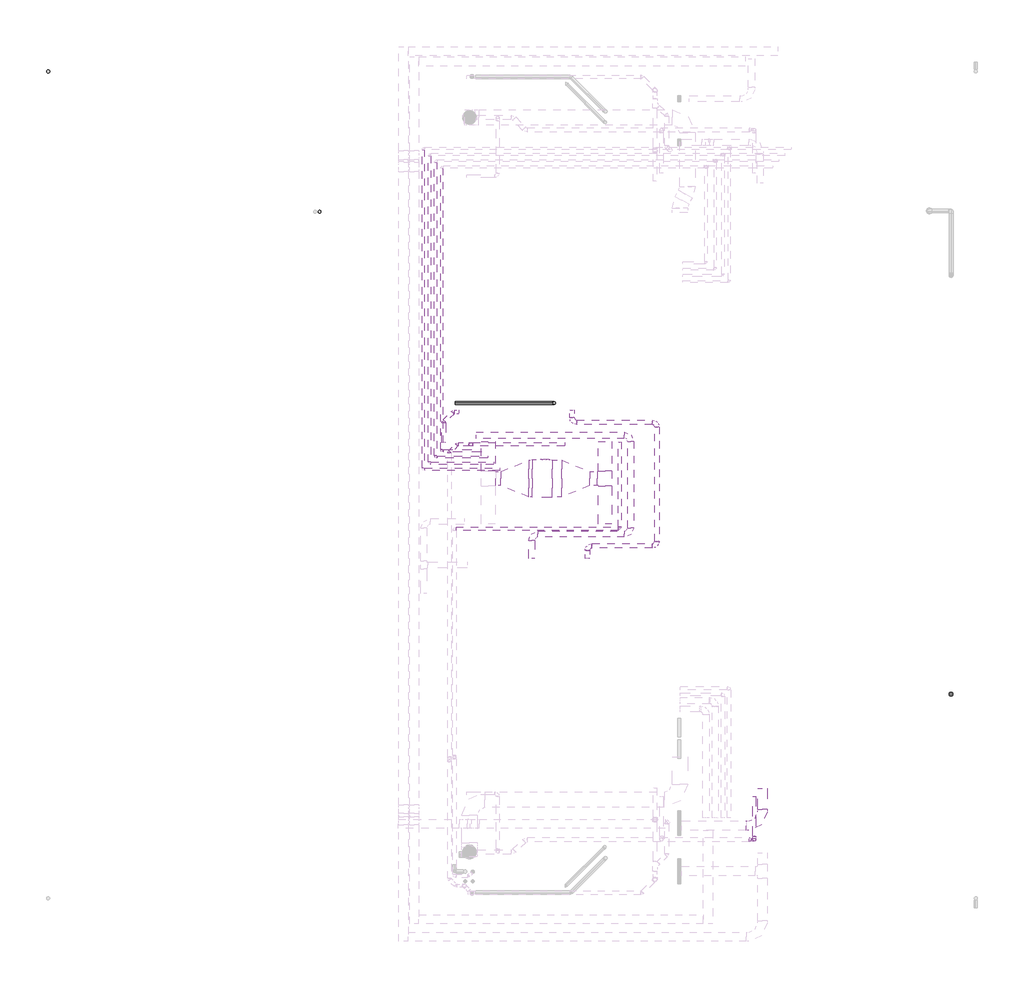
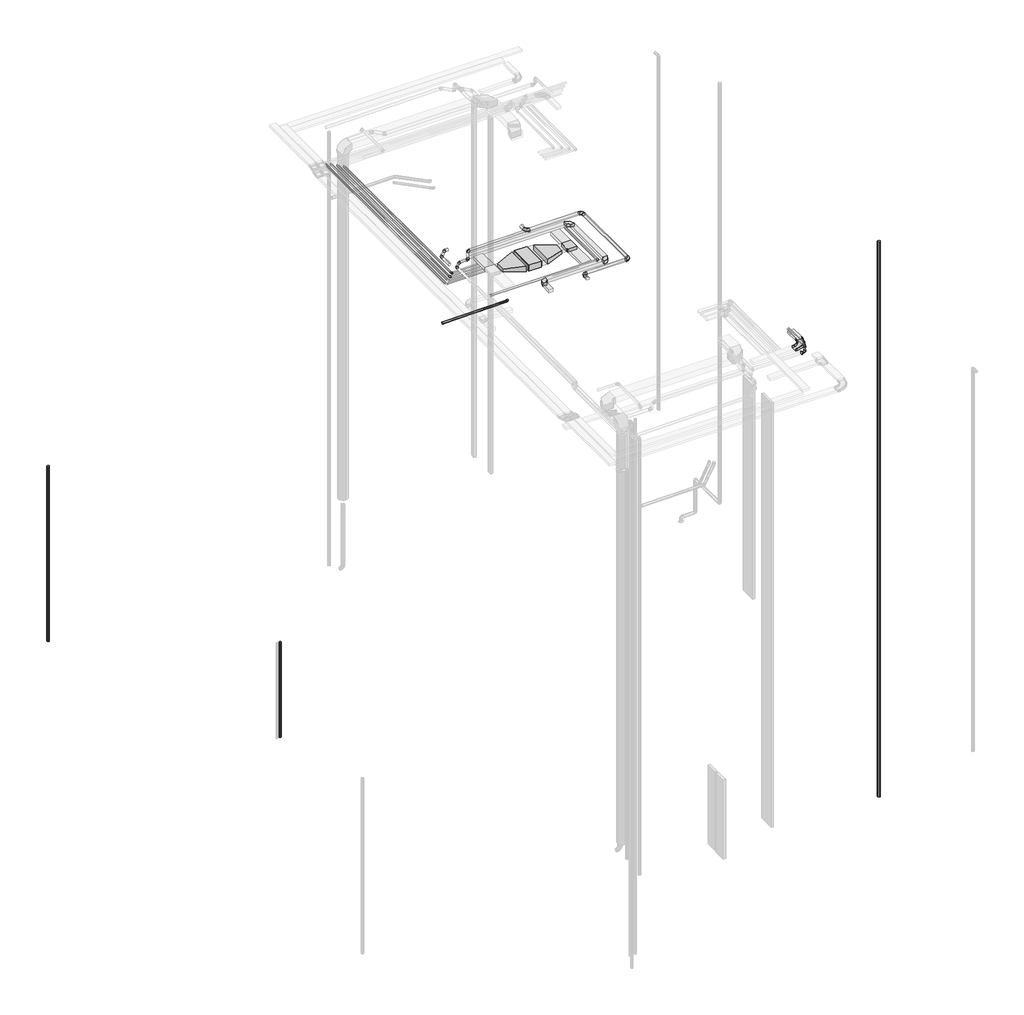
# One storey, part 3 of 5: 21 pipe segments, 18 duct segments, 13 duct fittings, 10 pipe fittings, 1 cable carrier fitting, 1 cable carrier segment, 1 proxy.
"""IFC4 building model written with IfcOpenShell, lengths in millimetres."""

from ifc_helpers import new_model, si_unit, point, frame, frame_2d, origin, place, context, project, spatial, polyline, circle_curve, trimmed, segment, composite_curve, outline, extrude, transform, mapped, element, save
from components import fc02_2b9a1db2, m_codo_horizontal_de_canal_el_5b0e7b07, duct_fitting_c79161f8, duct_fitting_90af8464, duct_fitting_d0abd107, ext_fd4e5c35, m_codo_rectangular_radio_apt_1_w_a605e9b7, m_codo_redondo_ext_1_d_fe658834, m_codo_redondo_ext_1_d_96ea52f9, pipe_fitting_b994c117, pipe_fitting_0b7fd5a4, pipe_fitting_aab77541, pipe_fitting_a8c499ec, pipe_fitting_3a68447e, pipe_fitting_87aeffad

model = new_model("IFC4")

# Units and contexts
model_context = context("Model", 3, world=origin())
ifc_project = project(units=[si_unit("LENGTHUNIT", "METRE", prefix="MILLI")], contexts=[model_context])

# Site, building, storey
site = spatial("IfcSite", under=ifc_project)
building = spatial("IfcBuilding", under=site)
storey = spatial("IfcBuildingStorey", under=building, Name="Nivell 06 P06_PP", Elevation=29910.0)

# Proxy
placement = place(None, origin())
fc02_shape = fc02_2b9a1db2(model_context)
element("IfcBuildingElementProxy", 1, Name="ARC_MDL_ME_UI_FC_ConducteSostre : FC02", ObjectType="ARC_MDL_ME_UI_FC_ConducteSostre : FC02", at=placement, inside=storey, context=model_context, shape_type="MappedRepresentation", body=[
    mapped(fc02_shape, transform((9481.3112528, -4290.0392002, 33010.0), x_axis=(-5.108879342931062e-05, -0.9999999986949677, 0.0), y_axis=(0.9999999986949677, -5.108879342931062e-05, 0.0), z_axis=(0.0, 0.0, 1.0))),
])

# Cable carrier fitting
m_codo_horizontal_de_canal_el_shape = m_codo_horizontal_de_canal_el_5b0e7b07(model_context)
element("IfcCableCarrierFitting", 2, ObjectType="M_Codo horizontal de canal : EL", at=placement, inside=storey, context=model_context, shape_type="MappedRepresentation", body=[
    mapped(m_codo_horizontal_de_canal_el_shape, transform((16614.6624278, -15521.1304394, 33010.0), x_axis=(1.0, 0.0, 0.0), y_axis=(0.0, 1.0, 0.0), z_axis=(0.0, 0.0, 1.0))),
])

# Cable carrier segment
element("IfcCableCarrierSegment", 3, ObjectType="EL", at=placement, inside=storey, context=model_context, shape_type="SweptSolid", body=[
    extrude(outline(polyline([(16464.6624278, -14321.1304394), (16764.6624278, -14321.1304394), (16764.6624278, -14996.1304394), (16464.6624278, -14996.1304394), (16464.6624278, -14321.1304394)])), frame((0.0, 0.0, 32960.0), z_axis=(0.0, 0.0, 1.0), x_axis=(1.0, 0.0, 0.0)), (0.0, 0.0, 1.0), 100.0),
])

# Duct fittings
duct_fitting_shape = duct_fitting_c79161f8(model_context)
element("IfcDuctFitting", 4, ObjectType="M_Transición redonda - Ángulo : EXT_45 graus", at=placement, inside=storey, context=model_context, shape_type="MappedRepresentation", body=[
    mapped(duct_fitting_shape, transform((16250.5896993, -15972.9719502, 33015.0), x_axis=(-1.0, 0.0, 0.0), y_axis=(0.0, -1.0, 0.0), z_axis=(0.0, 0.0, 1.0))),
])
duct_fitting_2_shape = duct_fitting_90af8464(model_context)
element("IfcDuctFitting", 5, ObjectType="M_Transición rectangular - Ángulo : EXT_45 graus", at=placement, inside=storey, context=model_context, shape_type="MappedRepresentation", body=[
    mapped(duct_fitting_2_shape, transform((8146.1618178, -4289.9878585, 33167.5), x_axis=(1.0, 0.0, 0.0), y_axis=(0.0, 1.0, 0.0), z_axis=(0.0, 0.0, 1.0))),
])
duct_fitting_3_shape = duct_fitting_d0abd107(model_context)
element("IfcDuctFitting", 6, ObjectType="M_Transición rectangular - Ángulo : EXT_45 graus", at=placement, inside=storey, context=model_context, shape_type="MappedRepresentation", body=[
    mapped(duct_fitting_3_shape, transform((10123.311255, -4290.0566725, 33167.5), x_axis=(1.0, 0.0, 0.0), y_axis=(0.0, 1.0, 0.0), z_axis=(0.0, 0.0, 1.0))),
])
ext_shape = ext_fd4e5c35(model_context)
element("IfcDuctFitting", 7, ObjectType="M_Te rectangular : EXT", at=placement, inside=storey, context=model_context, shape_type="MappedRepresentation", body=[
    mapped(ext_shape, transform((11523.311255, -4290.0566725, 33117.5), x_axis=(0.0, -1.0, 0.0), y_axis=(1.0, 0.0, 0.0), z_axis=(0.0, 0.0, 1.0))),
])
m_codo_rectangular_radio_apt_1_w_shape = m_codo_rectangular_radio_apt_1_w_a605e9b7(model_context)
element("IfcDuctFitting", 8, ObjectType="M_Codo rectangular - Radio : EXT_1 W", at=placement, inside=storey, context=model_context, shape_type="MappedRepresentation", body=[
    mapped(m_codo_rectangular_radio_apt_1_w_shape, transform((12351.1206995, -6088.8306037, 33185.0), x_axis=(1.0, 0.0, 0.0), y_axis=(0.0, 1.0, 0.0), z_axis=(0.0, 0.0, 1.0))),
])
element("IfcDuctFitting", 9, ObjectType="M_Codo rectangular - Radio : EXT_1 W", at=placement, inside=storey, context=model_context, shape_type="MappedRepresentation", body=[
    mapped(m_codo_rectangular_radio_apt_1_w_shape, transform((9151.1206995, -6088.8306037, 33185.0), x_axis=(-1.0, 0.0, 0.0), y_axis=(0.0, -1.0, 0.0), z_axis=(0.0, 0.0, 1.0))),
])
element("IfcDuctFitting", 10, ObjectType="M_Codo rectangular - Radio : EXT_1 W", at=placement, inside=storey, context=model_context, shape_type="MappedRepresentation", body=[
    mapped(m_codo_rectangular_radio_apt_1_w_shape, transform((12351.1206995, -2888.8306037, 33185.0), x_axis=(0.0, 1.0, 0.0), y_axis=(-1.0, 0.0, 0.0), z_axis=(0.0, 0.0, 1.0))),
])
m_codo_redondo_ext_1_d_shape = m_codo_redondo_ext_1_d_fe658834(model_context)
element("IfcDuctFitting", 11, ObjectType="M_Codo redondo : EXT_1 D", at=placement, inside=storey, context=model_context, shape_type="MappedRepresentation", body=[
    mapped(m_codo_redondo_ext_1_d_shape, transform((10951.1206995, -6468.8306037, 33185.0), x_axis=(-1.0, 0.0, 0.0), y_axis=(0.0, -1.0, 0.0), z_axis=(0.0, 0.0, 1.0))),
])
element("IfcDuctFitting", 12, ObjectType="M_Codo redondo : EXT_1 D", at=placement, inside=storey, context=model_context, shape_type="MappedRepresentation", body=[
    mapped(m_codo_redondo_ext_1_d_shape, transform((13201.1206995, -6468.8306037, 33185.0), x_axis=(1.0, 0.0, 0.0), y_axis=(0.0, 1.0, 0.0), z_axis=(0.0, 0.0, 1.0))),
])
element("IfcDuctFitting", 13, ObjectType="M_Codo redondo : EXT_1 D", at=placement, inside=storey, context=model_context, shape_type="MappedRepresentation", body=[
    mapped(m_codo_redondo_ext_1_d_shape, transform((13201.1206995, -2468.8306037, 33185.0), x_axis=(0.0, 1.0, 0.0), y_axis=(-1.0, 0.0, 0.0), z_axis=(0.0, 0.0, 1.0))),
])
element("IfcDuctFitting", 14, ObjectType="M_Codo redondo : EXT_1 D", at=placement, inside=storey, context=model_context, shape_type="MappedRepresentation", body=[
    mapped(m_codo_redondo_ext_1_d_shape, transform((10451.1206995, -2468.8306037, 33185.0), x_axis=(0.0, -1.0, 0.0), y_axis=(1.0, 0.0, 0.0), z_axis=(0.0, 0.0, 1.0))),
])
m_codo_redondo_ext_1_d_2_shape = m_codo_redondo_ext_1_d_96ea52f9(model_context)
element("IfcDuctFitting", 15, ObjectType="M_Codo redondo : EXT_1 D", at=placement, inside=storey, context=model_context, shape_type="MappedRepresentation", body=[
    mapped(m_codo_redondo_ext_1_d_2_shape, transform((16350.5896993, -15972.9719502, 33360.0), x_axis=(0.0, -1.0, 0.0), y_axis=(0.0, 0.0, 1.0), z_axis=(-1.0, 0.0, 0.0))),
])
element("IfcDuctFitting", 16, ObjectType="M_Codo redondo : EXT_1 D", at=placement, inside=storey, context=model_context, shape_type="MappedRepresentation", body=[
    mapped(m_codo_redondo_ext_1_d_2_shape, transform((16350.5896993, -15972.9719502, 33015.0), x_axis=(0.0, 0.0, -1.0), y_axis=(1.0, 0.0, 0.0), z_axis=(0.0, -1.0, 0.0))),
])

# Duct segments
element("IfcDuctSegment", 17, ObjectType="EXT_Fibra de vidre rígida", at=placement, inside=storey, context=model_context, shape_type="SweptSolid", body=[
    extrude(outline(polyline([(9351.1206995, -6188.8306037), (9351.1206995, -5988.8306037), (12151.1206995, -5988.8306037), (12151.1206995, -6188.8306037), (9351.1206995, -6188.8306037)])), frame((0.0, 0.0, 33110.0), z_axis=(0.0, 0.0, 1.0), x_axis=(1.0, 0.0, 0.0)), (0.0, 0.0, 1.0), 150.0),
])
element("IfcDuctSegment", 18, ObjectType="EXT_Fibra de vidre rígida", at=placement, inside=storey, context=model_context, shape_type="SweptSolid", body=[
    extrude(outline(polyline([(12251.1206995, -3088.8306037), (12451.1206995, -3088.8306037), (12451.1206995, -5888.8306037), (12251.1206995, -5888.8306037), (12251.1206995, -3088.8306037)])), frame((0.0, 0.0, 33110.0), z_axis=(0.0, 0.0, 1.0), x_axis=(1.0, 0.0, 0.0)), (0.0, 0.0, 1.0), 150.0),
])
element("IfcDuctSegment", 19, ObjectType="EXT_Fibra de vidre rígida", at=placement, inside=storey, context=model_context, shape_type="SweptSolid", body=[
    extrude(outline(polyline([(9251.1206995, -6868.8306037), (9051.1206995, -6868.8306037), (9051.1206995, -6288.8306037), (9251.1206995, -6288.8306037), (9251.1206995, -6868.8306037)])), frame((0.0, 0.0, 33110.0), z_axis=(0.0, 0.0, 1.0), x_axis=(1.0, 0.0, 0.0)), (0.0, 0.0, 1.0), 150.0),
])
element("IfcDuctSegment", 20, ObjectType="EXT_Fibra de vidre rígida", at=placement, inside=storey, context=model_context, shape_type="SweptSolid", body=[
    extrude(outline(polyline([(7351.1206995, -2988.8306037), (7351.1206995, -2788.8306037), (12151.1206995, -2788.8306037), (12151.1206995, -2988.8306037), (7351.1206995, -2988.8306037)])), frame((0.0, 0.0, 33110.0), z_axis=(0.0, 0.0, 1.0), x_axis=(1.0, 0.0, 0.0)), (0.0, 0.0, 1.0), 150.0),
])
element("IfcDuctSegment", 21, ObjectType="EXT_Acer Galvanitzat - Rígid", at=placement, inside=storey, context=model_context, shape_type="SweptSolid", body=[
    extrude(outline(composite_curve([segment(trimmed(circle_curve(frame_2d((33185.0, 10951.1206995)), 75.0), [point((33185.0, 11026.1206995))], [point((33260.0, 10951.1206995))], False, "CARTESIAN"), True, "CONTINUOUS"), segment(trimmed(circle_curve(frame_2d((33185.0, 10951.1206995)), 75.0), [point((33260.0, 10951.1206995))], [point((33185.0, 10876.1206995))], False, "CARTESIAN"), True, "CONTINUOUS"), segment(trimmed(circle_curve(frame_2d((33185.0, 10951.1206995)), 75.0), [point((33185.0, 10876.1206995))], [point((33110.0, 10951.1206995))], False, "CARTESIAN"), True, "CONTINUOUS"), segment(trimmed(circle_curve(frame_2d((33185.0, 10951.1206995)), 75.0), [point((33110.0, 10951.1206995))], [point((33185.0, 11026.1206995))], False, "CARTESIAN"), True, "CONTINUOUS")], self_intersect=False)), frame((0.0, -6868.8306037, 0.0), z_axis=(0.0, 1.0, 0.0), x_axis=(0.0, 0.0, 1.0)), (0.0, 0.0, 1.0), 250.0),
])
element("IfcDuctSegment", 22, ObjectType="EXT_Acer Galvanitzat - Rígid", at=placement, inside=storey, context=model_context, shape_type="SweptSolid", body=[
    extrude(outline(composite_curve([segment(trimmed(circle_curve(frame_2d((-6468.8306037, 33185.0)), 75.0), [point((-6543.8306037, 33185.0))], [point((-6468.8306037, 33260.0))], False, "CARTESIAN"), True, "CONTINUOUS"), segment(trimmed(circle_curve(frame_2d((-6468.8306037, 33185.0)), 75.0), [point((-6468.8306037, 33260.0))], [point((-6393.8306037, 33185.0))], False, "CARTESIAN"), True, "CONTINUOUS"), segment(trimmed(circle_curve(frame_2d((-6468.8306037, 33185.0)), 75.0), [point((-6393.8306037, 33185.0))], [point((-6468.8306037, 33110.0))], False, "CARTESIAN"), True, "CONTINUOUS"), segment(trimmed(circle_curve(frame_2d((-6468.8306037, 33185.0)), 75.0), [point((-6468.8306037, 33110.0))], [point((-6543.8306037, 33185.0))], False, "CARTESIAN"), True, "CONTINUOUS")], self_intersect=False)), frame((11101.1206995, 0.0, 0.0), z_axis=(1.0, 0.0, 0.0), x_axis=(0.0, 1.0, 0.0)), (0.0, 0.0, 1.0), 1950.0),
])
element("IfcDuctSegment", 23, ObjectType="EXT_Acer Galvanitzat - Rígid", at=placement, inside=storey, context=model_context, shape_type="SweptSolid", body=[
    extrude(outline(composite_curve([segment(trimmed(circle_curve(frame_2d((33185.0, 13201.1206995)), 75.0), [point((33185.0, 13276.1206995))], [point((33260.0, 13201.1206995))], False, "CARTESIAN"), True, "CONTINUOUS"), segment(trimmed(circle_curve(frame_2d((33185.0, 13201.1206995)), 75.0), [point((33260.0, 13201.1206995))], [point((33185.0, 13126.1206995))], False, "CARTESIAN"), True, "CONTINUOUS"), segment(trimmed(circle_curve(frame_2d((33185.0, 13201.1206995)), 75.0), [point((33185.0, 13126.1206995))], [point((33110.0, 13201.1206995))], False, "CARTESIAN"), True, "CONTINUOUS"), segment(trimmed(circle_curve(frame_2d((33185.0, 13201.1206995)), 75.0), [point((33110.0, 13201.1206995))], [point((33185.0, 13276.1206995))], False, "CARTESIAN"), True, "CONTINUOUS")], self_intersect=False)), frame((0.0, -6318.8306037, 0.0), z_axis=(0.0, 1.0, 0.0), x_axis=(0.0, 0.0, 1.0)), (0.0, 0.0, 1.0), 3700.0),
])
element("IfcDuctSegment", 24, ObjectType="EXT_Acer Galvanitzat - Rígid", at=placement, inside=storey, context=model_context, shape_type="SweptSolid", body=[
    extrude(outline(composite_curve([segment(trimmed(circle_curve(frame_2d((-2468.8306037, 33185.0)), 75.0), [point((-2393.8306037, 33185.0))], [point((-2468.8306037, 33110.0))], False, "CARTESIAN"), True, "CONTINUOUS"), segment(trimmed(circle_curve(frame_2d((-2468.8306037, 33185.0)), 75.0), [point((-2468.8306037, 33110.0))], [point((-2543.8306037, 33185.0))], False, "CARTESIAN"), True, "CONTINUOUS"), segment(trimmed(circle_curve(frame_2d((-2468.8306037, 33185.0)), 75.0), [point((-2543.8306037, 33185.0))], [point((-2468.8306037, 33260.0))], False, "CARTESIAN"), True, "CONTINUOUS"), segment(trimmed(circle_curve(frame_2d((-2468.8306037, 33185.0)), 75.0), [point((-2468.8306037, 33260.0))], [point((-2393.8306037, 33185.0))], False, "CARTESIAN"), True, "CONTINUOUS")], self_intersect=False)), frame((10601.1206995, 0.0, 0.0), z_axis=(1.0, 0.0, 0.0), x_axis=(0.0, 1.0, 0.0)), (0.0, 0.0, 1.0), 2450.0),
])
element("IfcDuctSegment", 25, ObjectType="EXT_Acer Galvanitzat - Rígid", at=placement, inside=storey, context=model_context, shape_type="SweptSolid", body=[
    extrude(outline(composite_curve([segment(trimmed(circle_curve(frame_2d((33185.0, 10451.1206995)), 75.0), [point((33185.0, 10526.1206995))], [point((33260.0, 10451.1206995))], False, "CARTESIAN"), True, "CONTINUOUS"), segment(trimmed(circle_curve(frame_2d((33185.0, 10451.1206995)), 75.0), [point((33260.0, 10451.1206995))], [point((33185.0, 10376.1206995))], False, "CARTESIAN"), True, "CONTINUOUS"), segment(trimmed(circle_curve(frame_2d((33185.0, 10451.1206995)), 75.0), [point((33185.0, 10376.1206995))], [point((33110.0, 10451.1206995))], False, "CARTESIAN"), True, "CONTINUOUS"), segment(trimmed(circle_curve(frame_2d((33185.0, 10451.1206995)), 75.0), [point((33110.0, 10451.1206995))], [point((33185.0, 10526.1206995))], False, "CARTESIAN"), True, "CONTINUOUS")], self_intersect=False)), frame((0.0, -2318.8306037, 0.0), z_axis=(0.0, 1.0, 0.0), x_axis=(0.0, 0.0, 1.0)), (0.0, 0.0, 1.0), 250.0),
])
element("IfcDuctSegment", 26, ObjectType="EXT_Acer Galvanitzat - Rígid", at=placement, inside=storey, context=model_context, shape_type="SweptSolid", body=[
    extrude(outline(composite_curve([segment(trimmed(circle_curve(frame_2d((33360.0, 16350.5896993)), 50.0), [point((33360.0, 16400.5896993))], [point((33410.0, 16350.5896993))], False, "CARTESIAN"), True, "CONTINUOUS"), segment(trimmed(circle_curve(frame_2d((33360.0, 16350.5896993)), 50.0), [point((33410.0, 16350.5896993))], [point((33360.0, 16300.5896993))], False, "CARTESIAN"), True, "CONTINUOUS"), segment(trimmed(circle_curve(frame_2d((33360.0, 16350.5896993)), 50.0), [point((33360.0, 16300.5896993))], [point((33310.0, 16350.5896993))], False, "CARTESIAN"), True, "CONTINUOUS"), segment(trimmed(circle_curve(frame_2d((33360.0, 16350.5896993)), 50.0), [point((33310.0, 16350.5896993))], [point((33360.0, 16400.5896993))], False, "CARTESIAN"), True, "CONTINUOUS")], self_intersect=False)), frame((0.0, -15872.9719502, 0.0), z_axis=(0.0, 1.0, 0.0), x_axis=(0.0, 0.0, 1.0)), (0.0, 0.0, 1.0), 1301.48805),
])
element("IfcDuctSegment", 27, ObjectType="EXT_Acer Galvanitzat - Rígid", at=placement, inside=storey, context=model_context, shape_type="SweptSolid", body=[
    extrude(outline(composite_curve([segment(trimmed(circle_curve(frame_2d((16350.5896993, -15972.9719502)), 50.0), [point((16400.5896993, -15972.9719502))], [point((16350.5896993, -16022.9719502))], False, "CARTESIAN"), True, "CONTINUOUS"), segment(trimmed(circle_curve(frame_2d((16350.5896993, -15972.9719502)), 50.0), [point((16350.5896993, -16022.9719502))], [point((16300.5896993, -15972.9719502))], False, "CARTESIAN"), True, "CONTINUOUS"), segment(trimmed(circle_curve(frame_2d((16350.5896993, -15972.9719502)), 50.0), [point((16300.5896993, -15972.9719502))], [point((16350.5896993, -15922.9719502))], False, "CARTESIAN"), True, "CONTINUOUS"), segment(trimmed(circle_curve(frame_2d((16350.5896993, -15972.9719502)), 50.0), [point((16350.5896993, -15922.9719502))], [point((16400.5896993, -15972.9719502))], False, "CARTESIAN"), True, "CONTINUOUS")], self_intersect=False)), frame((0.0, 0.0, 33115.0), z_axis=(0.0, 0.0, 1.0), x_axis=(1.0, 0.0, 0.0)), (0.0, 0.0, 1.0), 145.0),
])
element("IfcDuctSegment", 28, ObjectType="EXT_Planxa galvanitzada", at=placement, inside=storey, context=model_context, shape_type="SweptSolid", body=[
    extrude(outline(polyline([(8146.1618178, -4064.9878585), (8146.1618178, -4514.9878585), (7996.1618178, -4514.9878585), (7996.1618178, -4064.9878585), (8146.1618178, -4064.9878585)])), frame((0.0, 0.0, 33092.5), z_axis=(0.0, 0.0, 1.0), x_axis=(1.0, 0.0, 0.0)), (0.0, 0.0, 1.0), 150.0),
])
element("IfcDuctSegment", 29, ObjectType="EXT_Planxa galvanitzada", at=placement, inside=storey, context=model_context, shape_type="SweptSolid", body=[
    extrude(outline(polyline([(9823.311255, -4890.0566725), (9823.311255, -3690.0566725), (10123.311255, -3690.0566725), (10123.311255, -4890.0566725), (9823.311255, -4890.0566725)])), frame((0.0, 0.0, 33030.0), z_axis=(0.0, 0.0, 1.0), x_axis=(1.0, 0.0, 0.0)), (0.0, 0.0, 1.0), 275.0),
])
element("IfcDuctSegment", 30, ObjectType="EXT_Planxa galvanitzada", at=placement, inside=storey, context=model_context, shape_type="SweptSolid", body=[
    extrude(outline(polyline([(9166.5836021, -3690.023169), (9166.0389044, -4890.0230454), (9051.2195546, -4889.9709272), (9051.7642523, -3689.9710508), (9166.5836021, -3690.023169)])), frame((0.0, 0.0, 33030.0), z_axis=(0.0, 0.0, 1.0), x_axis=(1.0, 0.0, 0.0)), (0.0, 0.0, 1.0), 275.0),
])
element("IfcDuctSegment", 31, ObjectType="EXT_Planxa galvanitzada", at=placement, inside=storey, context=model_context, shape_type="SweptSolid", body=[
    extrude(outline(polyline([(11028.6413409, -4515.0566725), (11028.6413409, -4065.0566725), (11273.311255, -4065.0566725), (11273.311255, -4515.0566725), (11028.6413409, -4515.0566725)])), frame((0.0, 0.0, 33042.5), z_axis=(0.0, 0.0, 1.0), x_axis=(1.0, 0.0, 0.0)), (0.0, 0.0, 1.0), 150.0),
])
element("IfcDuctSegment", 32, ObjectType="EXT_Planxa galvanitzada", at=placement, inside=storey, context=model_context, shape_type="SweptSolid", body=[
    extrude(outline(polyline([(11748.311255, -4040.0566725), (11298.311255, -4040.0566725), (11298.311255, -3089.9878585), (11748.311255, -3089.9878585), (11748.311255, -4040.0566725)])), frame((0.0, 0.0, 33042.5), z_axis=(0.0, 0.0, 1.0), x_axis=(1.0, 0.0, 0.0)), (0.0, 0.0, 1.0), 150.0),
])
element("IfcDuctSegment", 33, ObjectType="EXT_Planxa galvanitzada", at=placement, inside=storey, context=model_context, shape_type="SweptSolid", body=[
    extrude(outline(polyline([(11298.311255, -4540.0566725), (11748.311255, -4540.0566725), (11748.311255, -5765.0566725), (11298.311255, -5765.0566725), (11298.311255, -4540.0566725)])), frame((0.0, 0.0, 33042.5), z_axis=(0.0, 0.0, 1.0), x_axis=(1.0, 0.0, 0.0)), (0.0, 0.0, 1.0), 150.0),
])
element("IfcDuctSegment", 34, ObjectType="EXT_Planxa galvanitzada", at=placement, inside=storey, context=model_context, shape_type="SweptSolid", body=[
    extrude(outline(polyline([(7971.1618178, -4039.9878585), (7521.1618178, -4039.9878585), (7521.1618178, -3089.9878585), (7971.1618178, -3089.9878585), (7971.1618178, -4039.9878585)])), frame((0.0, 0.0, 33092.5), z_axis=(0.0, 0.0, 1.0), x_axis=(1.0, 0.0, 0.0)), (0.0, 0.0, 1.0), 150.0),
])

# Pipe fittings
pipe_fitting_shape = pipe_fitting_b994c117(model_context)
element("IfcPipeFitting", 35, ObjectType="M_Codo - Genérico : Estándar", at=placement, inside=storey, context=model_context, shape_type="MappedRepresentation", body=[
    mapped(pipe_fitting_shape, transform((6311.3051568, -2451.1577931, 33277.5877132), x_axis=(-0.7070714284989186, -0.7070714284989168, -0.009999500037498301), y_axis=(0.7071300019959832, -0.7070714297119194, -0.0041416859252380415), z_axis=(-0.004141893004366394, -0.009999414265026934, 0.9999414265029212))),
])
element("IfcPipeFitting", 36, ObjectType="M_Codo - Genérico : Estándar", at=placement, inside=storey, context=model_context, shape_type="MappedRepresentation", body=[
    mapped(pipe_fitting_shape, transform((6620.3201267, -2142.1428232, 33281.9578449), x_axis=(-0.9999500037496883, 0.0, -0.009999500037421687), y_axis=(4.14168592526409e-05, -0.9999914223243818, -0.004141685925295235), z_axis=(-0.00999941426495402, -0.004141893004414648, 0.9999414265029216))),
])
pipe_fitting_2_shape = pipe_fitting_0b7fd5a4(model_context)
element("IfcPipeFitting", 37, ObjectType="M_Codo - Genérico : Estándar", at=placement, inside=storey, context=model_context, shape_type="MappedRepresentation", body=[
    mapped(pipe_fitting_2_shape, transform((6489.9549591, -3440.646195, 33259.0362283), x_axis=(-0.7070714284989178, -0.7070714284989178, -0.00999950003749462), y_axis=(0.7071300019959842, -0.7070714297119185, -0.004141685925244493), z_axis=(-0.004141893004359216, -0.009999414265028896, 0.9999414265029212))),
])
element("IfcPipeFitting", 38, ObjectType="M_Codo - Genérico : Estándar", at=placement, inside=storey, context=model_context, shape_type="MappedRepresentation", body=[
    mapped(pipe_fitting_2_shape, transform((6744.0929223, -3186.5070187, 33262.4231872), x_axis=(-0.9999500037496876, 0.0, -0.009999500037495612), y_axis=(4.141685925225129e-05, -0.9999914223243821, -0.004141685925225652), z_axis=(-0.009999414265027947, -0.004141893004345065, 0.9999414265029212))),
])
pipe_fitting_3_shape = pipe_fitting_aab77541(model_context)
element("IfcPipeFitting", 39, ObjectType="M_Codo - Genérico : Estándar", at=placement, inside=storey, context=model_context, shape_type="MappedRepresentation", body=[
    mapped(pipe_fitting_3_shape, transform((7182.1037673, -3186.5070187, 33266.8032957), x_axis=(0.9999500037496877, 0.0, 0.009999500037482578), y_axis=(-0.009999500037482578, 0.0, 0.9999500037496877), z_axis=(0.0, -1.0, 0.0))),
])
element("IfcPipeFitting", 40, ObjectType="M_Codo - Genérico : Estándar", at=placement, inside=storey, context=model_context, shape_type="MappedRepresentation", body=[
    mapped(pipe_fitting_3_shape, transform((7182.1088406, -3186.4967672, 33729.0484449), x_axis=(0.0, 0.0, 1.0), y_axis=(1.0, 0.0, 0.0), z_axis=(0.0, 1.0, 0.0))),
])
pipe_fitting_4_shape = pipe_fitting_a8c499ec(model_context)
element("IfcPipeFitting", 41, ObjectType="M_Codo - Genérico : Estándar", at=placement, inside=storey, context=model_context, shape_type="MappedRepresentation", body=[
    mapped(pipe_fitting_4_shape, transform((9883.1603089, -1851.9887948, 29364.2030013), x_axis=(0.9999500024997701, 4.9997101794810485e-05, 0.009999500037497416), y_axis=(-0.009999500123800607, 1.476482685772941e-06, 0.9999500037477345), z_axis=(4.997983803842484e-05, -0.9999999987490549, 1.976354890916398e-06))),
])
pipe_fitting_5_shape = pipe_fitting_3a68447e(model_context)
element("IfcPipeFitting", 42, ObjectType="M_Codo - Genérico : Estándar", at=placement, inside=storey, context=model_context, shape_type="MappedRepresentation", body=[
    mapped(pipe_fitting_5_shape, transform((6245.7381883, -3394.9253722, 33022.5), x_axis=(0.0, -1.0, 0.0), y_axis=(1.0, 0.0, 0.0), z_axis=(0.0, 0.0, 1.0))),
])
element("IfcPipeFitting", 43, ObjectType="M_Codo - Genérico : Estándar", at=placement, inside=storey, context=model_context, shape_type="MappedRepresentation", body=[
    mapped(pipe_fitting_5_shape, transform((6045.7381883, -3594.9253722, 33022.5), x_axis=(0.0, -1.0, 0.0), y_axis=(1.0, 0.0, 0.0), z_axis=(0.0, 0.0, 1.0))),
])
pipe_fitting_6_shape = pipe_fitting_87aeffad(model_context)
element("IfcPipeFitting", 44, ObjectType="M_Codo - Genérico : Estándar", at=placement, inside=storey, context=model_context, shape_type="MappedRepresentation", body=[
    mapped(pipe_fitting_6_shape, transform((11998.0330075, -5912.8731458, 33210.8), x_axis=(1.0, 0.0, 0.0), y_axis=(0.0, 1.0, 0.0), z_axis=(0.0, 0.0, 1.0))),
])

# Pipe segments
element("IfcPipeSegment", 45, ObjectType="PVC_Baixant", at=placement, inside=storey, context=model_context, shape_type="SweptSolid", body=[
    extrude(outline(composite_curve([segment(trimmed(circle_curve(frame_2d((22710.0712358, -11264.3813427)), 62.5), [point((22772.5712358, -11264.3813427))], [point((22710.0712358, -11326.8813427))], False, "CARTESIAN"), True, "CONTINUOUS"), segment(trimmed(circle_curve(frame_2d((22710.0712358, -11264.3813427)), 62.5), [point((22710.0712358, -11326.8813427))], [point((22647.5712358, -11264.3813427))], False, "CARTESIAN"), True, "CONTINUOUS"), segment(trimmed(circle_curve(frame_2d((22710.0712358, -11264.3813427)), 62.5), [point((22647.5712358, -11264.3813427))], [point((22710.0712358, -11201.8813427))], False, "CARTESIAN"), True, "CONTINUOUS"), segment(trimmed(circle_curve(frame_2d((22710.0712358, -11264.3813427)), 62.5), [point((22710.0712358, -11201.8813427))], [point((22772.5712358, -11264.3813427))], False, "CARTESIAN"), True, "CONTINUOUS")], self_intersect=False)), frame((0.0, 0.0, 4838.2624618), z_axis=(0.0, 0.0, 1.0), x_axis=(1.0, 0.0, 0.0)), (0.0, 0.0, 1.0), 28838.909798),
])
element("IfcPipeSegment", 46, ObjectType="PVC_Baixant", at=placement, inside=storey, context=model_context, shape_type="SweptSolid", body=[
    extrude(outline(composite_curve([segment(trimmed(circle_curve(frame_2d((0.0, 62.5)), 62.5), [point((62.5, 62.5))], [point((0.0, 0.0))], False, "CARTESIAN"), True, "CONTINUOUS"), segment(trimmed(circle_curve(frame_2d((0.0, 62.5)), 62.5), [point((0.0, 0.0))], [point((-62.5, 62.5))], False, "CARTESIAN"), True, "CONTINUOUS"), segment(trimmed(circle_curve(frame_2d((0.0, 62.5)), 62.5), [point((-62.5, 62.5))], [point((0.0, 125.0))], False, "CARTESIAN"), True, "CONTINUOUS"), segment(trimmed(circle_curve(frame_2d((0.0, 62.5)), 62.5), [point((0.0, 125.0))], [point((62.5, 62.5))], False, "CARTESIAN"), True, "CONTINUOUS")], self_intersect=False)), frame((6311.3051568, -3132.5361884, 33333.2770542), z_axis=(0.0, 0.9999500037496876, 0.009999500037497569), x_axis=(1.0, 0.0, 0.0)), (0.0, 0.0, 1.0), 651.1988152),
])
element("IfcPipeSegment", 47, ObjectType="PVC_Baixant", at=placement, inside=storey, context=model_context, shape_type="SweptSolid", body=[
    extrude(outline(composite_curve([segment(trimmed(circle_curve(frame_2d((0.0, 62.5000001)), 62.5), [point((62.4968755, 61.8750626))], [point((-0.6249375, 0.0031244))], False, "CARTESIAN"), True, "CONTINUOUS"), segment(trimmed(circle_curve(frame_2d((0.0, 62.5000001)), 62.5), [point((-0.6249375, 0.0031244))], [point((-62.4968756, 63.1249376))], False, "CARTESIAN"), True, "CONTINUOUS"), segment(trimmed(circle_curve(frame_2d((0.0, 62.5000001)), 62.5), [point((-62.4968756, 63.1249376))], [point((0.6249375, 124.9968756))], False, "CARTESIAN"), True, "CONTINUOUS"), segment(trimmed(circle_curve(frame_2d((0.0, 62.5000001)), 62.5), [point((0.6249375, 124.9968756))], [point((62.4968755, 61.8750626))], False, "CARTESIAN"), True, "CONTINUOUS")], self_intersect=False)), frame((6332.2264445, -2431.1203005, 33340.3773359), z_axis=(0.707071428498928, 0.7070714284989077, 0.009999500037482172), x_axis=(0.7071421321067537, -0.7070007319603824, -0.009998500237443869)), (0.0, 0.0, 1.0), 377.8577153),
])
element("IfcPipeSegment", 48, ObjectType="PVC_Baixant", at=placement, inside=storey, context=model_context, shape_type="SweptSolid", body=[
    extrude(outline(composite_curve([segment(trimmed(circle_curve(frame_2d((0.0, -62.5)), 62.5), [point((0.0, 0.0))], [point((62.5, -62.5))], False, "CARTESIAN"), True, "CONTINUOUS"), segment(trimmed(circle_curve(frame_2d((0.0, -62.5)), 62.5), [point((62.5, -62.5))], [point((0.0, -125.0))], False, "CARTESIAN"), True, "CONTINUOUS"), segment(trimmed(circle_curve(frame_2d((0.0, -62.5)), 62.5), [point((0.0, -125.0))], [point((-62.5000001, -62.5))], False, "CARTESIAN"), True, "CONTINUOUS"), segment(trimmed(circle_curve(frame_2d((0.0, -62.5)), 62.5), [point((-62.5000001, -62.5))], [point((0.0, 0.0))], False, "CARTESIAN"), True, "CONTINUOUS")], self_intersect=False)), frame((6649.9072955, -2079.6428232, 33282.2537165), z_axis=(0.9999500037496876, 0.0, 0.009999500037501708), x_axis=(0.009999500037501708, 0.0, -0.9999500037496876)), (0.0, 0.0, 1.0), 146.1427714),
])
element("IfcPipeSegment", 49, ObjectType="PVC_Baixant", at=placement, inside=storey, context=model_context, shape_type="SweptSolid", body=[
    extrude(outline(composite_curve([segment(trimmed(circle_curve(frame_2d((0.0, 55.0)), 55.0), [point((54.9972505, 54.450055))], [point((-0.549945, 0.0027495))], False, "CARTESIAN"), True, "CONTINUOUS"), segment(trimmed(circle_curve(frame_2d((0.0, 55.0)), 55.0), [point((-0.549945, 0.0027495))], [point((-54.9972505, 55.549945))], False, "CARTESIAN"), True, "CONTINUOUS"), segment(trimmed(circle_curve(frame_2d((0.0, 55.0)), 55.0), [point((-54.9972505, 55.549945))], [point((0.549945, 109.9972505))], False, "CARTESIAN"), True, "CONTINUOUS"), segment(trimmed(circle_curve(frame_2d((0.0, 55.0)), 55.0), [point((0.549945, 109.9972505))], [point((54.9972505, 54.450055))], False, "CARTESIAN"), True, "CONTINUOUS")], self_intersect=False)), frame((6508.3869247, -3422.991969, 33314.2913965), z_axis=(0.7070714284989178, 0.7070714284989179, 0.009999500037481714), x_axis=(0.7071421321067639, -0.7070007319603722, -0.009998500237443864)), (0.0, 0.0, 1.0), 307.2860328),
])
element("IfcPipeSegment", 50, ObjectType="PVC_Baixant", at=placement, inside=storey, context=model_context, shape_type="SweptSolid", body=[
    extrude(outline(composite_curve([segment(trimmed(circle_curve(frame_2d((0.0, -55.0)), 55.0), [point((0.0, 0.0))], [point((55.0, -55.0))], False, "CARTESIAN"), True, "CONTINUOUS"), segment(trimmed(circle_curve(frame_2d((0.0, -55.0)), 55.0), [point((55.0, -55.0))], [point((0.0, -110.0))], False, "CARTESIAN"), True, "CONTINUOUS"), segment(trimmed(circle_curve(frame_2d((0.0, -55.0)), 55.0), [point((0.0, -110.0))], [point((-55.0, -55.0))], False, "CARTESIAN"), True, "CONTINUOUS"), segment(trimmed(circle_curve(frame_2d((0.0, -55.0)), 55.0), [point((-55.0, -55.0))], [point((0.0, 0.0))], False, "CARTESIAN"), True, "CONTINUOUS")], self_intersect=False)), frame((6770.1596581, -3131.5070187, 33262.6838546), z_axis=(0.9999500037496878, 0.0, 0.009999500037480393), x_axis=(0.009999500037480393, 0.0, -0.9999500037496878)), (0.0, 0.0, 1.0), 349.6534341),
])
element("IfcPipeSegment", 51, ObjectType="PVC_Baixant", at=placement, inside=storey, context=model_context, shape_type="SweptSolid", body=[
    extrude(outline(composite_curve([segment(trimmed(circle_curve(frame_2d((0.0, -55.0)), 55.0), [point((0.0, 0.0))], [point((55.0, -55.0))], False, "CARTESIAN"), True, "CONTINUOUS"), segment(trimmed(circle_curve(frame_2d((0.0, -55.0)), 55.0), [point((55.0, -55.0))], [point((0.0, -110.0))], False, "CARTESIAN"), True, "CONTINUOUS"), segment(trimmed(circle_curve(frame_2d((0.0, -55.0)), 55.0), [point((0.0, -110.0))], [point((-55.0, -55.0))], False, "CARTESIAN"), True, "CONTINUOUS"), segment(trimmed(circle_curve(frame_2d((0.0, -55.0)), 55.0), [point((-55.0, -55.0))], [point((0.0, 0.0))], False, "CARTESIAN"), True, "CONTINUOUS")], self_intersect=False)), frame((7244.4169971, -3131.4967672, 33729.6715264), z_axis=(0.9999500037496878, 0.0, 0.009999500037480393), x_axis=(0.009999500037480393, 0.0, -0.9999500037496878)), (0.0, 0.0, 1.0), 2970.6877235),
])
element("IfcPipeSegment", 52, ObjectType="PVC_Baixant", at=placement, inside=storey, context=model_context, shape_type="SweptSolid", body=[
    extrude(outline(composite_curve([segment(trimmed(circle_curve(frame_2d((0.0, 54.9999999)), 55.0), [point((-55.0, 54.9999999))], [point((0.0, 110.0))], False, "CARTESIAN"), True, "CONTINUOUS"), segment(trimmed(circle_curve(frame_2d((0.0, 54.9999999)), 55.0), [point((0.0, 110.0))], [point((55.0, 55.0))], False, "CARTESIAN"), True, "CONTINUOUS"), segment(trimmed(circle_curve(frame_2d((0.0, 54.9999999)), 55.0), [point((55.0, 55.0))], [point((0.0, 0.0))], False, "CARTESIAN"), True, "CONTINUOUS"), segment(trimmed(circle_curve(frame_2d((0.0, 54.9999999)), 55.0), [point((0.0, 0.0))], [point((-55.0, 54.9999999))], False, "CARTESIAN"), True, "CONTINUOUS")], self_intersect=False)), frame((7182.1037673, -3241.5070186, 33329.1162375), z_axis=(1.5026598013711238e-05, 3.036378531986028e-05, 0.9999999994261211), x_axis=(0.9999999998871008, -4.562643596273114e-10, -1.502659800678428e-05)), (0.0, 0.0, 1.0), 337.6226058),
])
element("IfcPipeSegment", 53, ObjectType="PVC_Baixant", at=placement, inside=storey, context=model_context, shape_type="SweptSolid", body=[
    extrude(outline(composite_curve([segment(trimmed(circle_curve(frame_2d((0.0, 45.0)), 45.0), [point((0.2250067, 0.0005625))], [point((-44.9994375, 44.7749933))], False, "CARTESIAN"), True, "CONTINUOUS"), segment(trimmed(circle_curve(frame_2d((0.0, 45.0)), 45.0), [point((-44.9994375, 44.7749933))], [point((-0.2250066, 89.9994374))], False, "CARTESIAN"), True, "CONTINUOUS"), segment(trimmed(circle_curve(frame_2d((0.0, 45.0)), 45.0), [point((-0.2250066, 89.9994374))], [point((44.9994375, 45.2250066))], False, "CARTESIAN"), True, "CONTINUOUS"), segment(trimmed(circle_curve(frame_2d((0.0, 45.0)), 45.0), [point((44.9994375, 45.2250066))], [point((0.2250067, 0.0005625))], False, "CARTESIAN"), True, "CONTINUOUS")], self_intersect=False)), frame((6684.6550488, -1897.1481563, 29332.4429441), z_axis=(0.9999500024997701, 4.999710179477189e-05, 0.009999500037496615), x_axis=(0.00999962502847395, -0.0049996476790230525, -0.9999375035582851)), (0.0, 0.0, 1.0), 3146.8002563),
])
element("IfcPipeSegment", 54, ObjectType="PPR_CLI_Aquatherm Blue Pipe", at=placement, inside=storey, context=model_context, shape_type="SweptSolid", body=[
    extrude(outline(composite_curve([segment(trimmed(circle_curve(frame_2d((33022.5, 6245.7381883)), 37.5), [point((33022.5, 6283.2381883))], [point((33060.0, 6245.7381883))], False, "CARTESIAN"), True, "CONTINUOUS"), segment(trimmed(circle_curve(frame_2d((33022.5, 6245.7381883)), 37.5), [point((33060.0, 6245.7381883))], [point((33022.5, 6208.2381883))], False, "CARTESIAN"), True, "CONTINUOUS"), segment(trimmed(circle_curve(frame_2d((33022.5, 6245.7381883)), 37.5), [point((33022.5, 6208.2381883))], [point((32985.0, 6245.7381883))], False, "CARTESIAN"), True, "CONTINUOUS"), segment(trimmed(circle_curve(frame_2d((33022.5, 6245.7381883)), 37.5), [point((32985.0, 6245.7381883))], [point((33022.5, 6283.2381883))], False, "CARTESIAN"), True, "CONTINUOUS")], self_intersect=False)), frame((0.0, -3349.4878722, 0.0), z_axis=(0.0, 1.0, 0.0), x_axis=(0.0, 0.0, 1.0)), (0.0, 0.0, 1.0), 9098.2931269),
])
element("IfcPipeSegment", 55, ObjectType="PPR_CLI_Aquatherm Blue Pipe", at=placement, inside=storey, context=model_context, shape_type="SweptSolid", body=[
    extrude(outline(composite_curve([segment(trimmed(circle_curve(frame_2d((33022.5, 6045.7381883)), 37.5), [point((33022.5, 6083.2381883))], [point((33060.0, 6045.7381883))], False, "CARTESIAN"), True, "CONTINUOUS"), segment(trimmed(circle_curve(frame_2d((33022.5, 6045.7381883)), 37.5), [point((33060.0, 6045.7381883))], [point((33022.5, 6008.2381883))], False, "CARTESIAN"), True, "CONTINUOUS"), segment(trimmed(circle_curve(frame_2d((33022.5, 6045.7381883)), 37.5), [point((33022.5, 6008.2381883))], [point((32985.0, 6045.7381883))], False, "CARTESIAN"), True, "CONTINUOUS"), segment(trimmed(circle_curve(frame_2d((33022.5, 6045.7381883)), 37.5), [point((32985.0, 6045.7381883))], [point((33022.5, 6083.2381883))], False, "CARTESIAN"), True, "CONTINUOUS")], self_intersect=False)), frame((0.0, -3549.4878722, 0.0), z_axis=(0.0, 1.0, 0.0), x_axis=(0.0, 0.0, 1.0)), (0.0, 0.0, 1.0), 9498.2931269),
])
element("IfcPipeSegment", 56, ObjectType="PPR_CLI_Aquatherm Blue Pipe", at=placement, inside=storey, context=model_context, shape_type="SweptSolid", body=[
    extrude(outline(composite_curve([segment(trimmed(circle_curve(frame_2d((33022.5, 5845.7381883)), 37.5), [point((33022.5, 5883.2381883))], [point((33060.0, 5845.7381883))], False, "CARTESIAN"), True, "CONTINUOUS"), segment(trimmed(circle_curve(frame_2d((33022.5, 5845.7381883)), 37.5), [point((33060.0, 5845.7381883))], [point((33022.5, 5808.2381883))], False, "CARTESIAN"), True, "CONTINUOUS"), segment(trimmed(circle_curve(frame_2d((33022.5, 5845.7381883)), 37.5), [point((33022.5, 5808.2381883))], [point((32985.0, 5845.7381883))], False, "CARTESIAN"), True, "CONTINUOUS"), segment(trimmed(circle_curve(frame_2d((33022.5, 5845.7381883)), 37.5), [point((32985.0, 5845.7381883))], [point((33022.5, 5883.2381883))], False, "CARTESIAN"), True, "CONTINUOUS")], self_intersect=False)), frame((0.0, -3749.4878722, 0.0), z_axis=(0.0, 1.0, 0.0), x_axis=(0.0, 0.0, 1.0)), (0.0, 0.0, 1.0), 9898.2931269),
])
element("IfcPipeSegment", 57, ObjectType="PPR_CLI_Aquatherm Blue Pipe", at=placement, inside=storey, context=model_context, shape_type="SweptSolid", body=[
    extrude(outline(composite_curve([segment(trimmed(circle_curve(frame_2d((33022.5, 5645.7381883)), 37.5), [point((33022.5, 5683.2381883))], [point((33060.0, 5645.7381883))], False, "CARTESIAN"), True, "CONTINUOUS"), segment(trimmed(circle_curve(frame_2d((33022.5, 5645.7381883)), 37.5), [point((33060.0, 5645.7381883))], [point((33022.5, 5608.2381883))], False, "CARTESIAN"), True, "CONTINUOUS"), segment(trimmed(circle_curve(frame_2d((33022.5, 5645.7381883)), 37.5), [point((33022.5, 5608.2381883))], [point((32985.0, 5645.7381883))], False, "CARTESIAN"), True, "CONTINUOUS"), segment(trimmed(circle_curve(frame_2d((33022.5, 5645.7381883)), 37.5), [point((32985.0, 5645.7381883))], [point((33022.5, 5683.2381883))], False, "CARTESIAN"), True, "CONTINUOUS")], self_intersect=False)), frame((0.0, -3949.4878722, 0.0), z_axis=(0.0, 1.0, 0.0), x_axis=(0.0, 0.0, 1.0)), (0.0, 0.0, 1.0), 10298.2931269),
])
element("IfcPipeSegment", 58, ObjectType="PPR_CLI_Aquatherm Blue Pipe", at=placement, inside=storey, context=model_context, shape_type="SweptSolid", body=[
    extrude(outline(composite_curve([segment(trimmed(circle_curve(frame_2d((-3394.9253722, 33022.5)), 37.5), [point((-3432.4253722, 33022.5))], [point((-3394.9253722, 33060.0))], False, "CARTESIAN"), True, "CONTINUOUS"), segment(trimmed(circle_curve(frame_2d((-3394.9253722, 33022.5)), 37.5), [point((-3394.9253722, 33060.0))], [point((-3357.4253722, 33022.5))], False, "CARTESIAN"), True, "CONTINUOUS"), segment(trimmed(circle_curve(frame_2d((-3394.9253722, 33022.5)), 37.5), [point((-3357.4253722, 33022.5))], [point((-3394.9253722, 32985.0))], False, "CARTESIAN"), True, "CONTINUOUS"), segment(trimmed(circle_curve(frame_2d((-3394.9253722, 33022.5)), 37.5), [point((-3394.9253722, 32985.0))], [point((-3432.4253722, 33022.5))], False, "CARTESIAN"), True, "CONTINUOUS")], self_intersect=False)), frame((6291.1756883, 0.0, 0.0), z_axis=(1.0, 0.0, 0.0), x_axis=(0.0, 1.0, 0.0)), (0.0, 0.0, 1.0), 1234.603417),
])
element("IfcPipeSegment", 59, ObjectType="PPR_CLI_Aquatherm Blue Pipe", at=placement, inside=storey, context=model_context, shape_type="SweptSolid", body=[
    extrude(outline(composite_curve([segment(trimmed(circle_curve(frame_2d((-3594.9253722, 33022.5)), 37.5), [point((-3632.4253722, 33022.5))], [point((-3594.9253722, 33060.0))], False, "CARTESIAN"), True, "CONTINUOUS"), segment(trimmed(circle_curve(frame_2d((-3594.9253722, 33022.5)), 37.5), [point((-3594.9253722, 33060.0))], [point((-3557.4253722, 33022.5))], False, "CARTESIAN"), True, "CONTINUOUS"), segment(trimmed(circle_curve(frame_2d((-3594.9253722, 33022.5)), 37.5), [point((-3557.4253722, 33022.5))], [point((-3594.9253722, 32985.0))], False, "CARTESIAN"), True, "CONTINUOUS"), segment(trimmed(circle_curve(frame_2d((-3594.9253722, 33022.5)), 37.5), [point((-3594.9253722, 32985.0))], [point((-3632.4253722, 33022.5))], False, "CARTESIAN"), True, "CONTINUOUS")], self_intersect=False)), frame((6091.1756883, 0.0, 0.0), z_axis=(1.0, 0.0, 0.0), x_axis=(0.0, 1.0, 0.0)), (0.0, 0.0, 1.0), 1634.603417),
])
element("IfcPipeSegment", 60, ObjectType="PPR_CLI_Aquatherm Blue Pipe", at=placement, inside=storey, context=model_context, shape_type="SweptSolid", body=[
    extrude(outline(composite_curve([segment(trimmed(circle_curve(frame_2d((-3794.9253722, 33022.5)), 37.5), [point((-3832.4253722, 33022.5))], [point((-3794.9253722, 33060.0))], False, "CARTESIAN"), True, "CONTINUOUS"), segment(trimmed(circle_curve(frame_2d((-3794.9253722, 33022.5)), 37.5), [point((-3794.9253722, 33060.0))], [point((-3757.4253722, 33022.5))], False, "CARTESIAN"), True, "CONTINUOUS"), segment(trimmed(circle_curve(frame_2d((-3794.9253722, 33022.5)), 37.5), [point((-3757.4253722, 33022.5))], [point((-3794.9253722, 32985.0))], False, "CARTESIAN"), True, "CONTINUOUS"), segment(trimmed(circle_curve(frame_2d((-3794.9253722, 33022.5)), 37.5), [point((-3794.9253722, 32985.0))], [point((-3832.4253722, 33022.5))], False, "CARTESIAN"), True, "CONTINUOUS")], self_intersect=False)), frame((5891.1756883, 0.0, 0.0), z_axis=(1.0, 0.0, 0.0), x_axis=(0.0, 1.0, 0.0)), (0.0, 0.0, 1.0), 2034.603417),
])
element("IfcPipeSegment", 61, ObjectType="PPR_CLI_Aquatherm Blue Pipe", at=placement, inside=storey, context=model_context, shape_type="SweptSolid", body=[
    extrude(outline(composite_curve([segment(trimmed(circle_curve(frame_2d((-3994.9253722, 33022.5)), 37.5), [point((-4032.4253722, 33022.5))], [point((-3994.9253722, 33060.0))], False, "CARTESIAN"), True, "CONTINUOUS"), segment(trimmed(circle_curve(frame_2d((-3994.9253722, 33022.5)), 37.5), [point((-3994.9253722, 33060.0))], [point((-3957.4253722, 33022.5))], False, "CARTESIAN"), True, "CONTINUOUS"), segment(trimmed(circle_curve(frame_2d((-3994.9253722, 33022.5)), 37.5), [point((-3957.4253722, 33022.5))], [point((-3994.9253722, 32985.0))], False, "CARTESIAN"), True, "CONTINUOUS"), segment(trimmed(circle_curve(frame_2d((-3994.9253722, 33022.5)), 37.5), [point((-3994.9253722, 32985.0))], [point((-4032.4253722, 33022.5))], False, "CARTESIAN"), True, "CONTINUOUS")], self_intersect=False)), frame((5691.1756883, 0.0, 0.0), z_axis=(1.0, 0.0, 0.0), x_axis=(0.0, 1.0, 0.0)), (0.0, 0.0, 1.0), 2434.603417),
])
element("IfcPipeSegment", 62, ObjectType="AN_CI", at=placement, inside=storey, context=model_context, shape_type="SweptSolid", body=[
    extrude(outline(composite_curve([segment(trimmed(circle_curve(frame_2d((-6483.9196562, 8882.5752066)), 50.8), [point((-6433.1196562, 8882.5752066))], [point((-6483.9196562, 8831.7752066))], False, "CARTESIAN"), True, "CONTINUOUS"), segment(trimmed(circle_curve(frame_2d((-6483.9196562, 8882.5752066)), 50.8), [point((-6483.9196562, 8831.7752066))], [point((-6534.7196562, 8882.5752066))], False, "CARTESIAN"), True, "CONTINUOUS"), segment(trimmed(circle_curve(frame_2d((-6483.9196562, 8882.5752066)), 50.8), [point((-6534.7196562, 8882.5752066))], [point((-6483.9196562, 8933.3752066))], False, "CARTESIAN"), True, "CONTINUOUS"), segment(trimmed(circle_curve(frame_2d((-6483.9196562, 8882.5752066)), 50.8), [point((-6483.9196562, 8933.3752066))], [point((-6433.1196562, 8882.5752066))], False, "CARTESIAN"), True, "CONTINUOUS")], self_intersect=False)), frame((0.0, 0.0, 10915.6093458), z_axis=(0.0, 0.0, 1.0), x_axis=(1.0, 0.0, 0.0)), (0.0, 0.0, 1.0), 9076.98125),
])
element("IfcPipeSegment", 63, ObjectType="AN_CI", at=placement, inside=storey, context=model_context, shape_type="SweptSolid", body=[
    extrude(outline(composite_curve([segment(trimmed(circle_curve(frame_2d((-5912.8731458, 33210.8)), 50.8), [point((-5963.6731458, 33210.8))], [point((-5912.8731458, 33261.6))], False, "CARTESIAN"), True, "CONTINUOUS"), segment(trimmed(circle_curve(frame_2d((-5912.8731458, 33210.8)), 50.8), [point((-5912.8731458, 33261.6))], [point((-5862.0731458, 33210.8))], False, "CARTESIAN"), True, "CONTINUOUS"), segment(trimmed(circle_curve(frame_2d((-5912.8731458, 33210.8)), 50.8), [point((-5862.0731458, 33210.8))], [point((-5912.8731458, 33160.0))], False, "CARTESIAN"), True, "CONTINUOUS"), segment(trimmed(circle_curve(frame_2d((-5912.8731458, 33210.8)), 50.8), [point((-5912.8731458, 33160.0))], [point((-5963.6731458, 33210.8))], False, "CARTESIAN"), True, "CONTINUOUS")], self_intersect=False)), frame((6706.2816113, 0.0, 0.0), z_axis=(1.0, 0.0, 0.0), x_axis=(0.0, 1.0, 0.0)), (0.0, 0.0, 1.0), 5239.3638963),
])
element("IfcPipeSegment", 64, ObjectType="AN_CI", at=placement, inside=storey, context=model_context, shape_type="SweptSolid", body=[
    extrude(outline(composite_curve([segment(trimmed(circle_curve(frame_2d((33210.8, 11998.0330075)), 50.8), [point((33210.8, 12048.8330075))], [point((33261.6, 11998.0330075))], False, "CARTESIAN"), True, "CONTINUOUS"), segment(trimmed(circle_curve(frame_2d((33210.8, 11998.0330075)), 50.8), [point((33261.6, 11998.0330075))], [point((33210.8, 11947.2330075))], False, "CARTESIAN"), True, "CONTINUOUS"), segment(trimmed(circle_curve(frame_2d((33210.8, 11998.0330075)), 50.8), [point((33210.8, 11947.2330075))], [point((33160.0, 11998.0330075))], False, "CARTESIAN"), True, "CONTINUOUS"), segment(trimmed(circle_curve(frame_2d((33210.8, 11998.0330075)), 50.8), [point((33160.0, 11998.0330075))], [point((33210.8, 12048.8330075))], False, "CARTESIAN"), True, "CONTINUOUS")], self_intersect=False)), frame((0.0, -5860.4856458, 0.0), z_axis=(0.0, 1.0, 0.0), x_axis=(0.0, 0.0, 1.0)), (0.0, 0.0, 1.0), 2747.6125),
])
element("IfcPipeSegment", 65, ObjectType="PP_FN", at=placement, inside=storey, context=model_context, shape_type="SweptSolid", body=[
    extrude(outline(composite_curve([segment(trimmed(circle_curve(frame_2d((2292.2371387, 4345.0540394)), 45.0), [point((2337.2371387, 4345.0540394))], [point((2292.2371387, 4300.0540394))], False, "CARTESIAN"), True, "CONTINUOUS"), segment(trimmed(circle_curve(frame_2d((2292.2371387, 4345.0540394)), 45.0), [point((2292.2371387, 4300.0540394))], [point((2247.2371387, 4345.0540394))], False, "CARTESIAN"), True, "CONTINUOUS"), segment(trimmed(circle_curve(frame_2d((2292.2371387, 4345.0540394)), 45.0), [point((2247.2371387, 4345.0540394))], [point((2292.2371387, 4390.0540394))], False, "CARTESIAN"), True, "CONTINUOUS"), segment(trimmed(circle_curve(frame_2d((2292.2371387, 4345.0540394)), 45.0), [point((2292.2371387, 4390.0540394))], [point((2337.2371387, 4345.0540394))], False, "CARTESIAN"), True, "CONTINUOUS")], self_intersect=False)), frame((0.0, 0.0, 5605.0), z_axis=(0.0, 0.0, 1.0), x_axis=(1.0, 0.0, 0.0)), (0.0, 0.0, 1.0), 4920.0),
])

save(model, "model.ifc")
